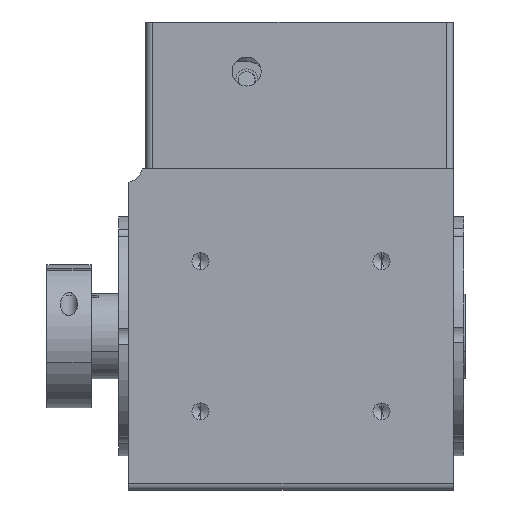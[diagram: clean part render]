
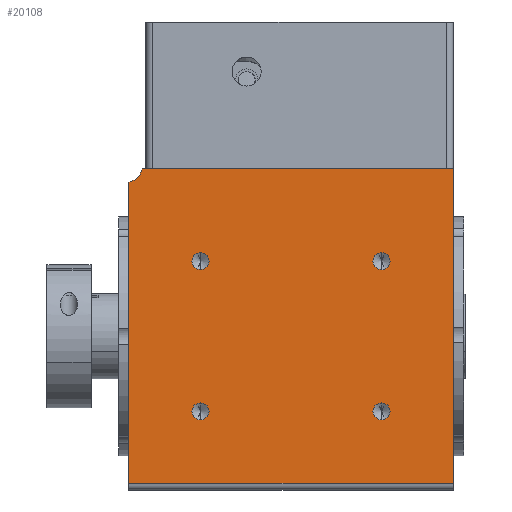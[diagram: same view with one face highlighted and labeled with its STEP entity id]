
A CAD part, front view. The second image highlights one B-rep face of the part: STEP entity #20108.
In plain terms, the highlighted planar face has unit normal (0, -1, 0).
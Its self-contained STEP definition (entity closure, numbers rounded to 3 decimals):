
#109 = CARTESIAN_POINT ( 'NONE',  ( -38.743, -60.486, 95. ) ) ;
#412 = VERTEX_POINT ( 'NONE', #18291 ) ;
#547 = AXIS2_PLACEMENT_3D ( 'NONE', #4998, #23357, #7629 ) ;
#873 = DIRECTION ( 'NONE',  ( 0., 0., -1. ) ) ;
#1807 = CIRCLE ( 'NONE', #24126, 2.5 ) ;
#2745 = DIRECTION ( 'NONE',  ( 0., 0., -1. ) ) ;
#2831 = ORIENTED_EDGE ( 'NONE', *, *, #26994, .T. ) ;
#3359 = CARTESIAN_POINT ( 'NONE',  ( 36.257, -60.486, 64.5 ) ) ;
#4061 = CARTESIAN_POINT ( 'NONE',  ( 36.257, -60.486, 67. ) ) ;
#4209 = ORIENTED_EDGE ( 'NONE', *, *, #8944, .F. ) ;
#4297 = EDGE_CURVE ( 'NONE', #27732, #14918, #16357, .T. ) ;
#4998 = CARTESIAN_POINT ( 'NONE',  ( -16.743, -60.486, 67. ) ) ;
#5361 = FACE_BOUND ( 'NONE', #23993, .T. ) ;
#6119 = AXIS2_PLACEMENT_3D ( 'NONE', #8325, #26701, #10979 ) ;
#6199 = FACE_BOUND ( 'NONE', #10515, .T. ) ;
#6570 = CARTESIAN_POINT ( 'NONE',  ( 36.257, -60.486, 23. ) ) ;
#6691 = DIRECTION ( 'NONE',  ( 0., 0., -1. ) ) ;
#7022 = CARTESIAN_POINT ( 'NONE',  ( -33.844, -60.486, 94. ) ) ;
#7264 = EDGE_CURVE ( 'NONE', #33177, #10893, #25261, .T. ) ;
#7386 = CARTESIAN_POINT ( 'NONE',  ( 36.257, -60.486, 67. ) ) ;
#7518 = DIRECTION ( 'NONE',  ( 1., 0., 0. ) ) ;
#7557 = EDGE_CURVE ( 'NONE', #24960, #30293, #21119, .T. ) ;
#7629 = DIRECTION ( 'NONE',  ( 0., 0., -1. ) ) ;
#7694 = VERTEX_POINT ( 'NONE', #7022 ) ;
#8183 = EDGE_LOOP ( 'NONE', ( #32263, #12455 ) ) ;
#8254 = CIRCLE ( 'NONE', #28332, 2.5 ) ;
#8325 = CARTESIAN_POINT ( 'NONE',  ( -16.743, -60.486, 23. ) ) ;
#8577 = CARTESIAN_POINT ( 'NONE',  ( 57.257, -60.486, 2. ) ) ;
#8813 = CIRCLE ( 'NONE', #547, 2.5 ) ;
#8944 = EDGE_CURVE ( 'NONE', #412, #29790, #1807, .T. ) ;
#8993 = CARTESIAN_POINT ( 'NONE',  ( -37.743, -60.486, 90.101 ) ) ;
#9016 = ORIENTED_EDGE ( 'NONE', *, *, #32800, .F. ) ;
#9204 = DIRECTION ( 'NONE',  ( 0., 0., -1. ) ) ;
#9425 = AXIS2_PLACEMENT_3D ( 'NONE', #10449, #28808, #13095 ) ;
#10014 = VECTOR ( 'NONE', #25925, 1000. ) ;
#10019 = DIRECTION ( 'NONE',  ( 0., 0., -1. ) ) ;
#10170 = ORIENTED_EDGE ( 'NONE', *, *, #4297, .T. ) ;
#10449 = CARTESIAN_POINT ( 'NONE',  ( -37.743, -60.486, 94. ) ) ;
#10515 = EDGE_LOOP ( 'NONE', ( #29406, #22326 ) ) ;
#10893 = VERTEX_POINT ( 'NONE', #13366 ) ;
#10979 = DIRECTION ( 'NONE',  ( 0., 0., -1. ) ) ;
#11038 = AXIS2_PLACEMENT_3D ( 'NONE', #12643, #31012, #15242 ) ;
#11151 = DIRECTION ( 'NONE',  ( 0., -1., 0. ) ) ;
#11412 = CARTESIAN_POINT ( 'NONE',  ( 57.257, -60.486, 94. ) ) ;
#11558 = AXIS2_PLACEMENT_3D ( 'NONE', #7386, #25745, #10019 ) ;
#11700 = LINE ( 'NONE', #11412, #24839 ) ;
#12455 = ORIENTED_EDGE ( 'NONE', *, *, #26785, .F. ) ;
#12571 = VERTEX_POINT ( 'NONE', #8577 ) ;
#12643 = CARTESIAN_POINT ( 'NONE',  ( -16.743, -60.486, 23. ) ) ;
#12675 = AXIS2_PLACEMENT_3D ( 'NONE', #6570, #24938, #9204 ) ;
#12739 = CARTESIAN_POINT ( 'NONE',  ( 57.257, -60.486, 94. ) ) ;
#13095 = DIRECTION ( 'NONE',  ( 0., 0., 1. ) ) ;
#13301 = CIRCLE ( 'NONE', #32684, 2.5 ) ;
#13366 = CARTESIAN_POINT ( 'NONE',  ( 36.257, -60.486, 69.5 ) ) ;
#14432 = CARTESIAN_POINT ( 'NONE',  ( 36.257, -60.486, 23. ) ) ;
#14731 = ORIENTED_EDGE ( 'NONE', *, *, #26126, .F. ) ;
#14795 = VERTEX_POINT ( 'NONE', #12739 ) ;
#14918 = VERTEX_POINT ( 'NONE', #21063 ) ;
#15242 = DIRECTION ( 'NONE',  ( 0., 0., -1. ) ) ;
#16217 = EDGE_LOOP ( 'NONE', ( #10170, #2831, #14731, #27552, #27159 ) ) ;
#16357 = LINE ( 'NONE', #33309, #17184 ) ;
#17080 = DIRECTION ( 'NONE',  ( 0., 0., -1. ) ) ;
#17184 = VECTOR ( 'NONE', #20160, 1000. ) ;
#18291 = CARTESIAN_POINT ( 'NONE',  ( -16.743, -60.486, 69.5 ) ) ;
#18413 = DIRECTION ( 'NONE',  ( 0., -1., 0. ) ) ;
#19148 = EDGE_CURVE ( 'NONE', #31818, #24484, #32135, .T. ) ;
#19303 = FACE_BOUND ( 'NONE', #8183, .T. ) ;
#19515 = ORIENTED_EDGE ( 'NONE', *, *, #7264, .F. ) ;
#20108 = ADVANCED_FACE ( 'NONE', ( #32514, #5361, #6199, #19303, #33332 ), #26186, .F. ) ;
#20160 = DIRECTION ( 'NONE',  ( 0., 0., -1. ) ) ;
#20217 = CARTESIAN_POINT ( 'NONE',  ( 36.257, -60.486, 25.5 ) ) ;
#21063 = CARTESIAN_POINT ( 'NONE',  ( -37.743, -60.486, 2. ) ) ;
#21119 = CIRCLE ( 'NONE', #12675, 2.5 ) ;
#21276 = CARTESIAN_POINT ( 'NONE',  ( -16.743, -60.486, 25.5 ) ) ;
#22326 = ORIENTED_EDGE ( 'NONE', *, *, #23649, .F. ) ;
#22391 = DIRECTION ( 'NONE',  ( 0., -1., 0. ) ) ;
#22788 = CARTESIAN_POINT ( 'NONE',  ( -16.743, -60.486, 64.5 ) ) ;
#22847 = AXIS2_PLACEMENT_3D ( 'NONE', #109, #18413, #2745 ) ;
#23357 = DIRECTION ( 'NONE',  ( 0., -1., 0. ) ) ;
#23649 = EDGE_CURVE ( 'NONE', #24484, #31818, #25355, .T. ) ;
#23993 = EDGE_LOOP ( 'NONE', ( #19515, #9016 ) ) ;
#24126 = AXIS2_PLACEMENT_3D ( 'NONE', #26878, #11151, #29521 ) ;
#24484 = VERTEX_POINT ( 'NONE', #21276 ) ;
#24839 = VECTOR ( 'NONE', #873, 1000. ) ;
#24938 = DIRECTION ( 'NONE',  ( 0., -1., 0. ) ) ;
#24960 = VERTEX_POINT ( 'NONE', #31026 ) ;
#25238 = CARTESIAN_POINT ( 'NONE',  ( -16.743, -60.486, 20.5 ) ) ;
#25261 = CIRCLE ( 'NONE', #11558, 2.5 ) ;
#25355 = CIRCLE ( 'NONE', #11038, 2.5 ) ;
#25745 = DIRECTION ( 'NONE',  ( 0., -1., 0. ) ) ;
#25892 = CARTESIAN_POINT ( 'NONE',  ( -37.743, -60.486, 94. ) ) ;
#25919 = EDGE_CURVE ( 'NONE', #29790, #412, #8813, .T. ) ;
#25925 = DIRECTION ( 'NONE',  ( 1., 0., 0. ) ) ;
#26126 = EDGE_CURVE ( 'NONE', #14795, #12571, #11700, .T. ) ;
#26186 = PLANE ( 'NONE',  #9425 ) ;
#26701 = DIRECTION ( 'NONE',  ( 0., -1., 0. ) ) ;
#26729 = LINE ( 'NONE', #25892, #33747 ) ;
#26785 = EDGE_CURVE ( 'NONE', #30293, #24960, #13301, .T. ) ;
#26878 = CARTESIAN_POINT ( 'NONE',  ( -16.743, -60.486, 67. ) ) ;
#26994 = EDGE_CURVE ( 'NONE', #14918, #12571, #32640, .T. ) ;
#27159 = ORIENTED_EDGE ( 'NONE', *, *, #33558, .F. ) ;
#27194 = ORIENTED_EDGE ( 'NONE', *, *, #25919, .F. ) ;
#27552 = ORIENTED_EDGE ( 'NONE', *, *, #31364, .F. ) ;
#27732 = VERTEX_POINT ( 'NONE', #8993 ) ;
#28332 = AXIS2_PLACEMENT_3D ( 'NONE', #4061, #22391, #6691 ) ;
#28347 = CIRCLE ( 'NONE', #22847, 5. ) ;
#28808 = DIRECTION ( 'NONE',  ( 0., 1., 0. ) ) ;
#29406 = ORIENTED_EDGE ( 'NONE', *, *, #19148, .F. ) ;
#29521 = DIRECTION ( 'NONE',  ( 0., 0., -1. ) ) ;
#29790 = VERTEX_POINT ( 'NONE', #22788 ) ;
#30293 = VERTEX_POINT ( 'NONE', #20217 ) ;
#31012 = DIRECTION ( 'NONE',  ( 0., -1., 0. ) ) ;
#31026 = CARTESIAN_POINT ( 'NONE',  ( 36.257, -60.486, 20.5 ) ) ;
#31364 = EDGE_CURVE ( 'NONE', #7694, #14795, #26729, .T. ) ;
#31818 = VERTEX_POINT ( 'NONE', #25238 ) ;
#32135 = CIRCLE ( 'NONE', #6119, 2.5 ) ;
#32263 = ORIENTED_EDGE ( 'NONE', *, *, #7557, .F. ) ;
#32514 = FACE_BOUND ( 'NONE', #33825, .T. ) ;
#32640 = LINE ( 'NONE', #33776, #10014 ) ;
#32684 = AXIS2_PLACEMENT_3D ( 'NONE', #14432, #32860, #17080 ) ;
#32800 = EDGE_CURVE ( 'NONE', #10893, #33177, #8254, .T. ) ;
#32860 = DIRECTION ( 'NONE',  ( 0., -1., 0. ) ) ;
#33177 = VERTEX_POINT ( 'NONE', #3359 ) ;
#33309 = CARTESIAN_POINT ( 'NONE',  ( -37.743, -60.486, 94. ) ) ;
#33332 = FACE_OUTER_BOUND ( 'NONE', #16217, .T. ) ;
#33558 = EDGE_CURVE ( 'NONE', #27732, #7694, #28347, .T. ) ;
#33747 = VECTOR ( 'NONE', #7518, 1000. ) ;
#33776 = CARTESIAN_POINT ( 'NONE',  ( 57.257, -60.486, 2. ) ) ;
#33825 = EDGE_LOOP ( 'NONE', ( #27194, #4209 ) ) ;
